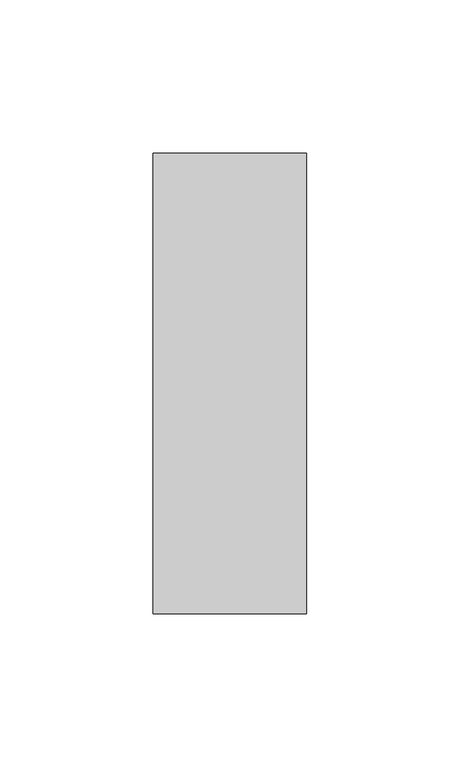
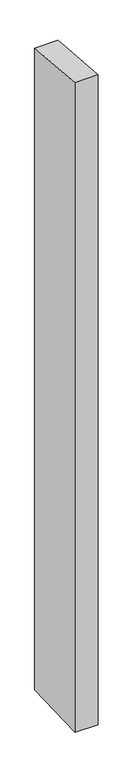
"""IFC4 building model written with IfcOpenShell, lengths in millimetres: member geometry, Прямоугольный импост : 50 x 150 мм."""

import ifcopenshell
import ifcopenshell.guid

model = None  # the IFC model being written
_history = None  # IfcOwnerHistory: only IFC2X3 demands one
_inside = {}  # id of a spatial element -> (the spatial element, [elements in it])
_under = {}  # id of a project, library or spatial element -> (it, [spatial elements below it])
_declared = {}  # id of a project -> (the project, [libraries it declares])
_typed = {}  # id of a type object -> (the type object, [elements of that type])
_made_of = {}  # id of a material, layer set ... -> (it, [elements and type objects made of it])


def new_model(schema):
    """Start an empty IFC model of exactly this schema.

    Asked for "IFC4X3", IfcOpenShell would pick the latest addendum, in which some entities
    have other attributes; the version numbers below select the first issue.
    IFC2X3 requires an IfcOwnerHistory on every rooted entity: one is made here for all.
    """
    global model, _history
    if schema == "IFC4X3":
        model = ifcopenshell.file(schema_version=(4, 3, 0, 0))
    else:
        model = ifcopenshell.file(schema=schema)
    _inside.clear()
    _under.clear()
    _declared.clear()
    _typed.clear()
    _made_of.clear()
    _history = None
    if model.schema == "IFC2X3":
        org = make("IfcOrganization", Name="unknown")
        user = make(
            "IfcPersonAndOrganization",
            ThePerson=make("IfcPerson", FamilyName="unknown"),
            TheOrganization=org,
        )
        app = make(
            "IfcApplication",
            ApplicationDeveloper=org,
            Version="unknown",
            ApplicationFullName="unknown",
            ApplicationIdentifier="unknown",
        )
        _history = make(
            "IfcOwnerHistory",
            OwningUser=user,
            OwningApplication=app,
            ChangeAction="ADDED",
            CreationDate=0,
        )
    return model


def make(cls, **values):
    """One entity of the class cls with the attributes given. An attribute that is None is left unset."""
    return model.create_entity(
        cls, **{name: value for name, value in values.items() if value is not None}
    )


def rooted(cls, **values):
    """An entity with a GlobalId (a new one), such as an element, a storey or a relation."""
    return make(cls, GlobalId=ifcopenshell.guid.new(), OwnerHistory=_history, **values)


def si_unit(unit_type, name, prefix=None):
    """IfcSIUnit, for example si_unit("LENGTHUNIT", "METRE", prefix="MILLI")."""
    return make("IfcSIUnit", UnitType=unit_type, Prefix=prefix, Name=name)


def assignment(units):
    """IfcUnitAssignment: the units of a project."""
    return None if units is None else make("IfcUnitAssignment", Units=units)


def point(xyz):
    """IfcCartesianPoint."""
    return None if xyz is None else make("IfcCartesianPoint", Coordinates=xyz)


def direction(xyz):
    """IfcDirection."""
    return None if xyz is None else make("IfcDirection", DirectionRatios=xyz)


def frame(location, z_axis=None, x_axis=None):
    """IfcAxis2Placement3D, a coordinate frame: its origin and axes. An axis left out is left unset."""
    return make(
        "IfcAxis2Placement3D",
        Location=point(location),
        Axis=direction(z_axis),
        RefDirection=direction(x_axis),
    )


def origin():
    """The frame at (0, 0, 0) with its axes left unset."""
    return frame((0.0, 0.0, 0.0))


def place(relative_to, where):
    """IfcLocalPlacement: puts the frame where relative to a parent placement (None: the world)."""
    return make(
        "IfcLocalPlacement", PlacementRelTo=relative_to, RelativePlacement=where
    )


def context(
    kind, dimensions, precision=None, world=None, true_north=None, identifier=None
):
    """IfcGeometricRepresentationContext, for example the 3D "Model" context."""
    return make(
        "IfcGeometricRepresentationContext",
        ContextIdentifier=identifier,
        ContextType=kind,
        CoordinateSpaceDimension=dimensions,
        Precision=precision,
        WorldCoordinateSystem=world,
        TrueNorth=true_north,
    )


def project(units=None, contexts=None):
    """IfcProject with its units and contexts."""
    return rooted(
        "IfcProject",
        Name="project",
        RepresentationContexts=contexts,
        UnitsInContext=assignment(units),
    )


def spatial(cls, under=None, at=None, **own):
    """A site, building, storey or space (cls), placed at a placement, below another one or the project."""
    s = rooted(cls, ObjectPlacement=at, **own)
    if under is not None:
        _under.setdefault(under.id(), (under, []))[1].append(s)
    return s


def faces_of(points, faces, orient=None, outer=None):
    """IfcFace entities. A face is a list of loops; a loop is a list of indices into points, from 0.

    orient and outer hold one flag for each loop. By default every Orientation is true, the
    first loop of a face is its IfcFaceOuterBound and the others are IfcFaceBound.
    """
    made = []
    for i, loops in enumerate(faces):
        bounds = []
        for j, loop in enumerate(loops):
            is_outer = j == 0 if outer is None else outer[i][j]
            bounds.append(
                make(
                    "IfcFaceOuterBound" if is_outer else "IfcFaceBound",
                    Bound=make("IfcPolyLoop", Polygon=[points[k] for k in loop]),
                    Orientation=True if orient is None else orient[i][j],
                )
            )
        made.append(make("IfcFace", Bounds=bounds))
    return made


def faceted_brep(points, faces, orient=None, outer=None, voids=None):
    """IfcFacetedBrep: a solid bounded by flat faces; with voids (closed shells), ...WithVoids."""
    shared = [point(p) for p in points]
    hull = make("IfcClosedShell", CfsFaces=faces_of(shared, faces, orient, outer))
    if voids is None:
        return make("IfcFacetedBrep", Outer=hull)
    return make(
        "IfcFacetedBrepWithVoids",
        Outer=hull,
        Voids=[
            make(cls, CfsFaces=faces_of(shared, fs, o, b)) for cls, fs, o, b in voids
        ],
    )


def shape(context_of_items, identifier, shape_type, items):
    """IfcShapeRepresentation: the items that make up one representation, for example the "Body"."""
    return make(
        "IfcShapeRepresentation",
        ContextOfItems=context_of_items,
        RepresentationIdentifier=identifier,
        RepresentationType=shape_type,
        Items=items,
    )


def source(mapping_origin, context_of_items, identifier, shape_type, items):
    """IfcRepresentationMap: a shape defined once, which mapped items show again and again."""
    return make(
        "IfcRepresentationMap",
        MappingOrigin=mapping_origin,
        MappedRepresentation=shape(context_of_items, identifier, shape_type, items),
    )


def transform(
    local_origin,
    x_axis=None,
    y_axis=None,
    z_axis=None,
    scale=None,
    scale2=None,
    scale3=None,
    uniform=True,
):
    """IfcCartesianTransformationOperator3D, or its non-uniform kind. x_axis, y_axis, z_axis: its Axis1, 2, 3."""
    if uniform:
        return make(
            "IfcCartesianTransformationOperator3D",
            Axis1=direction(x_axis),
            Axis2=direction(y_axis),
            LocalOrigin=point(local_origin),
            Scale=scale,
            Axis3=direction(z_axis),
        )
    return make(
        "IfcCartesianTransformationOperator3DnonUniform",
        Axis1=direction(x_axis),
        Axis2=direction(y_axis),
        LocalOrigin=point(local_origin),
        Scale=scale,
        Axis3=direction(z_axis),
        Scale2=scale2,
        Scale3=scale3,
    )


def mapped(mapping_source, mapping_target):
    """IfcMappedItem: shows the shape of a source again, moved by a transform."""
    return make(
        "IfcMappedItem", MappingSource=mapping_source, MappingTarget=mapping_target
    )


def made_of(thing, what):
    """Note that an element or type object is made of a material, layer set ...; save() writes the relation."""
    if what is not None:
        _made_of.setdefault(what.id(), (what, []))[1].append(thing)
    return thing


def element(
    cls,
    number,
    at=None,
    inside=None,
    cuts=None,
    type_object=None,
    material=None,
    context=None,
    identifier="Body",
    shape_type=None,
    held_by="IfcProductDefinitionShape",
    body=None,
    shapes=None,
    **own,
):
    """One element of the class cls, such as IfcWall. Its Tag is "e" and its number.

    at: its placement. inside: the storey or other place that contains it. cuts: it is an
    opening in that element (IfcRelVoidsElement). A single representation is given by context,
    identifier, shape_type and body (its items); several are given by shapes. held_by: the class
    of the entity that holds the representations. save() writes the other relations.
    """
    e = rooted(cls, Tag="e%d" % number, ObjectPlacement=at, **own)
    if body is not None:
        shapes = [shape(context, identifier, shape_type, body)]
    if shapes is not None:
        e.Representation = make(held_by, Representations=shapes)
    if inside is not None:
        _inside.setdefault(inside.id(), (inside, []))[1].append(e)
    if cuts is not None:
        rooted(
            "IfcRelVoidsElement", RelatingBuildingElement=cuts, RelatedOpeningElement=e
        )
    if type_object is not None:
        _typed.setdefault(type_object.id(), (type_object, []))[1].append(e)
    return made_of(e, material)


def aggregate(whole, parts):
    """IfcRelAggregates: a whole, such as a stair, and the parts it consists of."""
    return rooted("IfcRelAggregates", RelatingObject=whole, RelatedObjects=parts)


def save(model, path):
    """Write the relations noted so far, then the file.

    IfcRelAggregates (storeys below a building ...), IfcRelContainedInSpatialStructure (elements
    in a storey), IfcRelDefinesByType, IfcRelAssociatesMaterial and IfcRelDeclares: one each for
    every whole, place, type object, material and project.
    """
    for whole, parts in _under.values():
        aggregate(whole, parts)
    for where, things in _inside.values():
        rooted(
            "IfcRelContainedInSpatialStructure",
            RelatedElements=things,
            RelatingStructure=where,
        )
    for kind, things in _typed.values():
        rooted("IfcRelDefinesByType", RelatedObjects=things, RelatingType=kind)
    for what, things in _made_of.values():
        rooted("IfcRelAssociatesMaterial", RelatedObjects=things, RelatingMaterial=what)
    for by, libraries in _declared.values():
        rooted("IfcRelDeclares", RelatingContext=by, RelatedDefinitions=libraries)
    model.write(path)


def member_0cc69c45(model_context):
    return source(origin(), model_context, "Body", "Brep", [
        faceted_brep([(-25.0, 75.0, -6.15143), (25.0, 75.0, -5.6948839), (25.0, 75.0, -1467.9073707), (-25.0, 75.0, -1467.5117369), (-25.0, -75.0, 5.6948839), (-25.0, -75.0, -1473.8675727), (25.0, -75.0, 6.15143), (25.0, -75.0, -1474.2632066)], [[[0, 1, 2, 3]], [[4, 0, 3, 5]], [[6, 4, 5, 7]], [[1, 6, 7, 2]], [[1, 0, 4, 6]], [[2, 7, 5, 3]]]),
    ])


if __name__ == "__main__":
    model = new_model("IFC4")
    model_context = context("Model", 3, world=origin())
    ifc_project = project(units=[si_unit("LENGTHUNIT", "METRE", prefix="MILLI")], contexts=[model_context])
    site = spatial("IfcSite", under=ifc_project)
    building = spatial("IfcBuilding", under=site)
    placement = place(None, origin())
    member_shape = member_0cc69c45(model_context)
    element("IfcMember", 1, ObjectType="Прямоугольный импост : 50 x 150 мм", at=placement, inside=building, context=model_context, shape_type="MappedRepresentation", body=[
        mapped(member_shape, transform((0.0, 0.0, 0.0), x_axis=(1.0, 0.0, 0.0), y_axis=(0.0, 1.0, 0.0), z_axis=(0.0, 0.0, 1.0))),
    ])
    save(model, "model.ifc")
